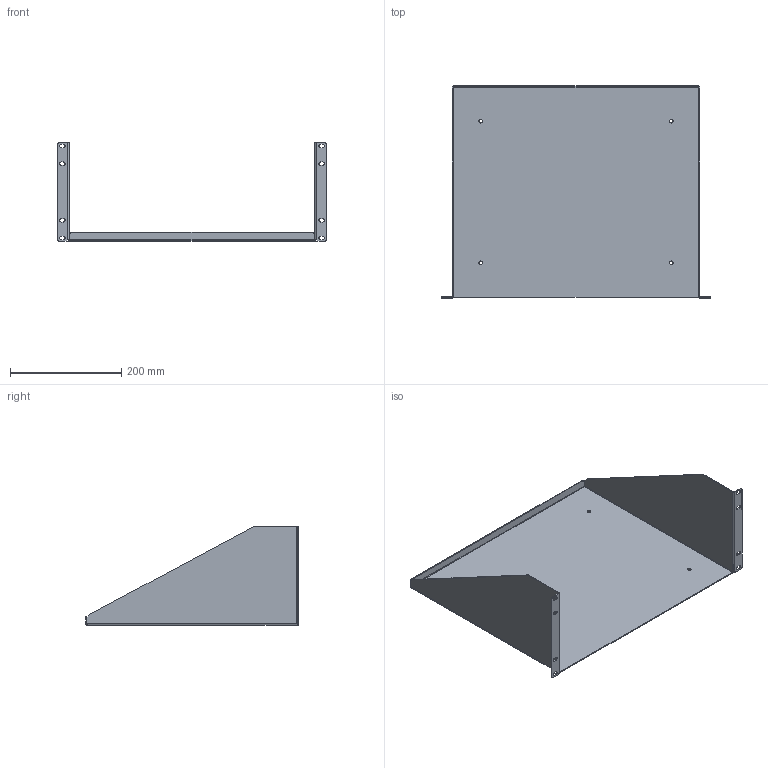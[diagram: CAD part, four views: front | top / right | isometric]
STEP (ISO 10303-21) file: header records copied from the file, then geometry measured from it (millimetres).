
FILE_DESCRIPTION( ( 'Unknown' ), '1' );
FILE_NAME( 'Q:/ACCESSORIES/SHELVES/RK _ RMA/WEB DRAWINGS/STEP/RASU190715.stp', 'Unknown', ( 'Unknown' ), ( 'Unknown' ), 'PSStep 10.1', 'Unknown', ' ' );
FILE_SCHEMA( ( 'AUTOMOTIVE_DESIGN { 1 0 10303 214 1 1 1 1 }' ) );
Length unit declared in the file: millimetre
Products named in the file (1): 1
Bounding box: 482.75 x 381 x 176.99 mm (x, y, z)
Volume: 483891.9 mm3; surface area: 533782.3 mm2
Topology: 1 solids, 1 shells, 100 faces, 278 edges, 180 vertices
Faces by surface type: plane 56, cylinder 40, bspline 4
Full cylindrical faces by diameter (mm): 6.35 x4
Entity records: 3445 total; most frequent: CARTESIAN_POINT 843, ORIENTED_EDGE 540, DIRECTION 524, EDGE_CURVE 270, AXIS2_PLACEMENT_3D 177, VERTEX_POINT 176, LINE 170, VECTOR 170
